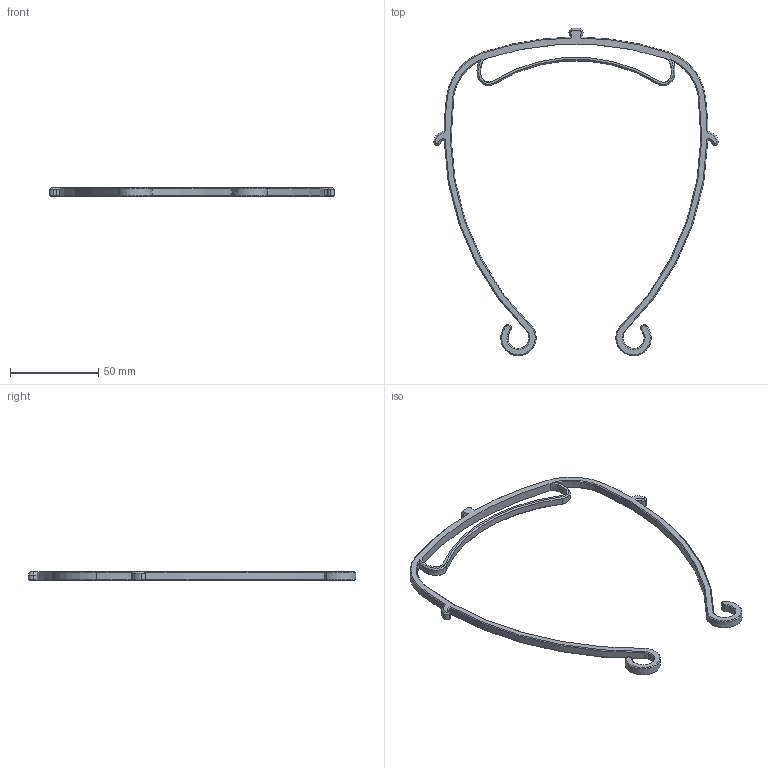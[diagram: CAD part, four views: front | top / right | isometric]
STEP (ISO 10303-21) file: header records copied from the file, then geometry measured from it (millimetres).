
FILE_DESCRIPTION((''),'2;1');
FILE_NAME('NA_LETTER3_OPEN','2020-04-09T14:38:44',('Jason'),(''),'CREO PARAMETRIC BY PTC INC, 2019224','CREO PARAMETRIC BY PTC INC, 2019224','');
FILE_SCHEMA(('CONFIG_CONTROL_DESIGN'));
Length unit declared in the file: millimetre
Products named in the file (1): NA_LETTER3_OPEN
Bounding box: 161.22 x 185.5 x 5 mm (x, y, z)
Volume: 12211.1 mm3; surface area: 11195.9 mm2
Topology: 1 solids, 1 shells, 114 faces, 274 edges, 162 vertices
Faces by surface type: cone 50, cylinder 27, plane 17, bspline 12, extrusion 8
Entity records: 5158 total; most frequent: CARTESIAN_POINT 2586, ORIENTED_EDGE 548, DIRECTION 495, EDGE_CURVE 274, AXIS2_PLACEMENT_3D 190, VERTEX_POINT 162, EDGE_LOOP 116, VECTOR 115
